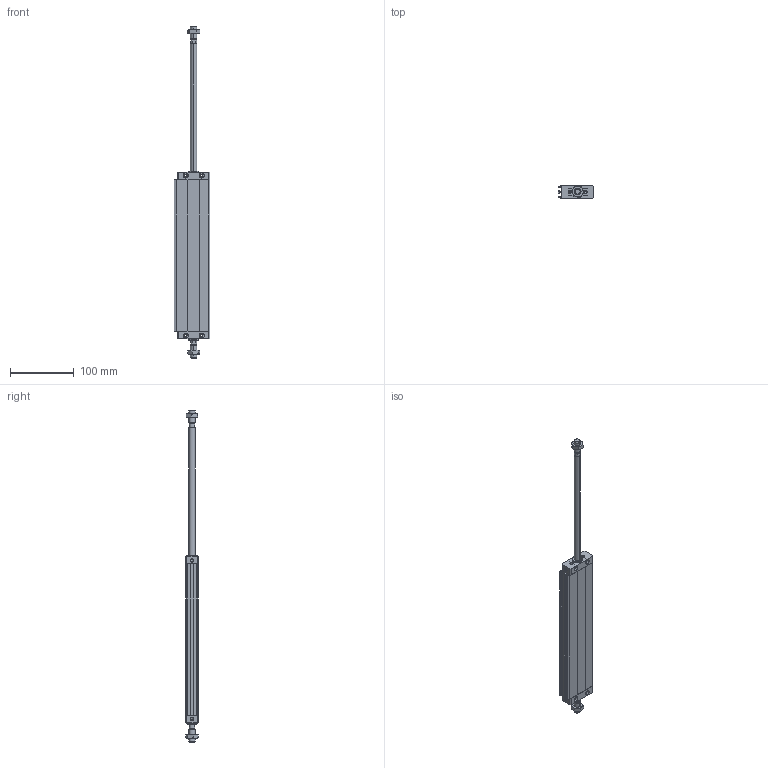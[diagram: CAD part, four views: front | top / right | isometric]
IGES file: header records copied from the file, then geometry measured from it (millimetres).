
Global section: file name: No Iges File Name specified; native system: Autodesk Inventor 2011; preprocessor: AutoDesk Inventor Iges Exporter R2011; author: airolcr1; date: 20101213.152855; units: millimetre
Bounding box: 56.25 x 20 x 522 mm (x, y, z)
Volume: 191760.9 mm3; surface area: 97081.4 mm2
Topology: 6 solids, 6 shells, 282 faces, 664 edges, 392 vertices
Faces by surface type: bspline 117, plane 97, cone 36, cylinder 18, revolution 14
